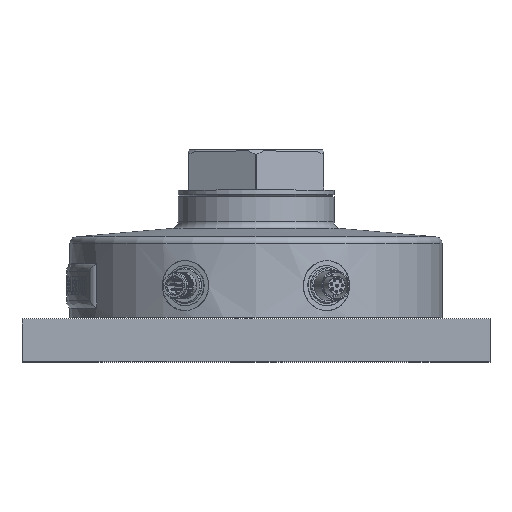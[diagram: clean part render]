
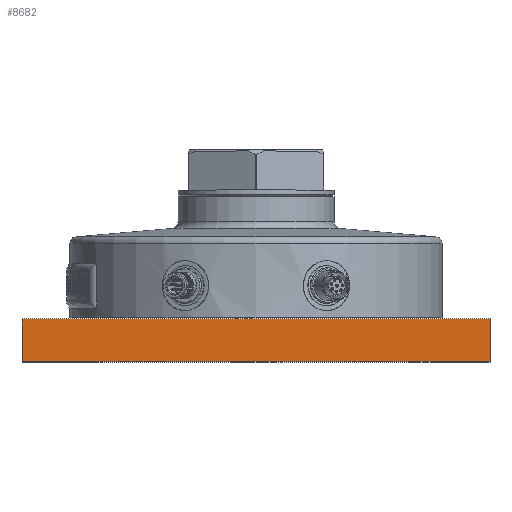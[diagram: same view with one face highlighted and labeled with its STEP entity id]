
A CAD part, top view. The second image highlights one B-rep face of the part: STEP entity #8682.
In plain terms, the highlighted planar face has unit normal (0, 0, 1).
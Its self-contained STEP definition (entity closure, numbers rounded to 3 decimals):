
#7773=DIRECTION('',(1.,0.,0.));
#7774=VECTOR('',#7773,210.);
#7775=CARTESIAN_POINT('',(-105.,0.,105.));
#7776=LINE('',#7775,#7774);
#7777=DIRECTION('',(0.,1.,0.));
#7778=VECTOR('',#7777,19.);
#7779=CARTESIAN_POINT('',(-105.,-19.,105.));
#7780=LINE('',#7779,#7778);
#7781=DIRECTION('',(0.,1.,0.));
#7782=VECTOR('',#7781,19.);
#7783=CARTESIAN_POINT('',(105.,-19.,105.));
#7784=LINE('',#7783,#7782);
#7823=DIRECTION('',(1.,0.,0.));
#7824=VECTOR('',#7823,210.);
#7825=CARTESIAN_POINT('',(-105.,-19.,105.));
#7826=LINE('',#7825,#7824);
#8319=CARTESIAN_POINT('',(105.,0.,105.));
#8320=VERTEX_POINT('',#8319);
#8321=CARTESIAN_POINT('',(-105.,0.,105.));
#8322=VERTEX_POINT('',#8321);
#8383=CARTESIAN_POINT('',(-105.,-19.,105.));
#8384=VERTEX_POINT('',#8383);
#8385=CARTESIAN_POINT('',(105.,-19.,105.));
#8386=VERTEX_POINT('',#8385);
#8669=CARTESIAN_POINT('',(105.,0.,105.));
#8670=DIRECTION('',(0.,0.,1.));
#8671=DIRECTION('',(-1.,0.,0.));
#8672=AXIS2_PLACEMENT_3D('',#8669,#8670,#8671);
#8673=PLANE('',#8672);
#8674=ORIENTED_EDGE('',*,*,#8548,.T.);
#8676=ORIENTED_EDGE('',*,*,#8675,.F.);
#8678=ORIENTED_EDGE('',*,*,#8677,.F.);
#8679=ORIENTED_EDGE('',*,*,#8662,.T.);
#8680=EDGE_LOOP('',(#8674,#8676,#8678,#8679));
#8681=FACE_OUTER_BOUND('',#8680,.F.);
#8682=ADVANCED_FACE('',(#8681),#8673,.T.);
#8548=EDGE_CURVE('',#8322,#8320,#7776,.T.);
#8662=EDGE_CURVE('',#8384,#8322,#7780,.T.);
#8675=EDGE_CURVE('',#8386,#8320,#7784,.T.);
#8677=EDGE_CURVE('',#8384,#8386,#7826,.T.);
